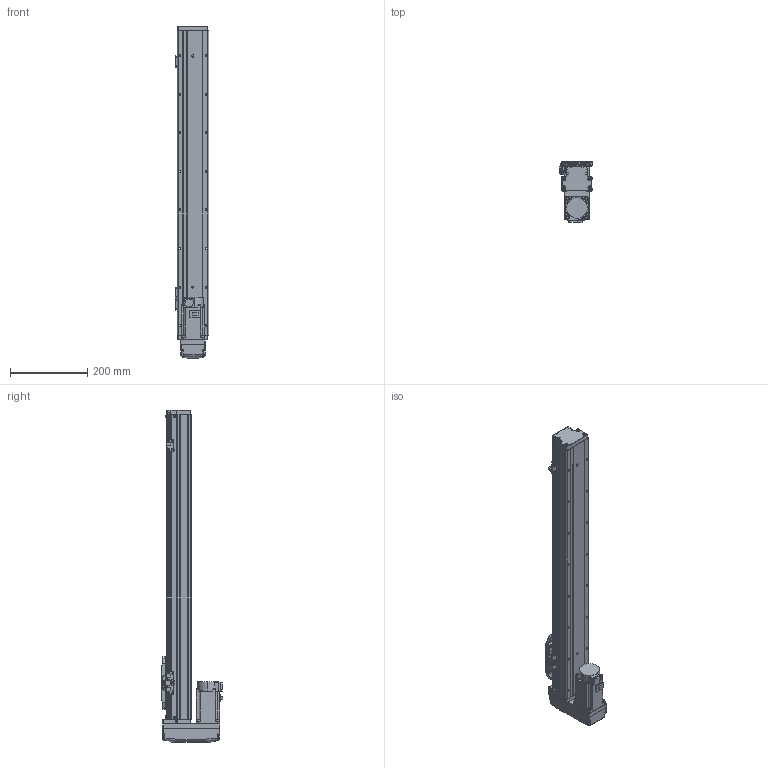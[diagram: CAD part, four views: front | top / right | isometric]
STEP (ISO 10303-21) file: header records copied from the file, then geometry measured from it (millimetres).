
FILE_DESCRIPTION (( 'STEP AP203' ), '1' );
FILE_NAME ('GTH8-600-BM-M20-C4.step', '2022-09-23T01:05:55', ( '微软用户' ), ( '微软中国' ), 'SwSTEP 2.0', 'SolidWorks 2020', '' );
FILE_SCHEMA (( 'CONFIG_CONTROL_DESIGN' ));
Length unit declared in the file: millimetre
Products named in the file (18): GTH80-004; GTH80-028; CTHA86-033_M40B; GTH80-006; GTH50-024; GTH8-600-BM-M20-C4; GTH80-013; GTH50-023; GBT 70.3-M3℅6; GBT96.1-2002 3×0.8; GTH80-022; BTH-M3X5X6; GTH80-001_600; GBT 70.1-M3℅6; hg-kn43j_-s100_; GTH80-003; GBT 70.1-M4×16; CTHA86-015-1_CTHA86-015-2
Assembly tree (57 placements, depth 2):
  GTH8-600-BM-M20-C4
    GTH80-001_600
    GTH80-003
    GTH80-004
    GTH80-006
    GTH80-013
    GBT 70.3-M3℅6  x4
    GTH80-022
    GBT 70.1-M3℅6  x14
    GBT 70.1-M4×16  x8
    GTH80-028  x2
    GTH50-024  x3
    GTH50-023  x3
    GBT96.1-2002 3×0.8  x6
    BTH-M3X5X6  x8
    hg-kn43j_-s100_
    CTHA86-015-1_CTHA86-015-2
    CTHA86-033_M40B
Bounding box: 86.9 x 160.3 x 861 mm (x, y, z)
Volume: 4410667.2 mm3; surface area: 463096.1 mm2
Topology: 59 solids, 59 shells, 2240 faces, 5175 edges, 3171 vertices
Faces by surface type: plane 1187, cylinder 611, cone 260, torus 166, bspline 8, sphere 8
Entity records: 40922 total; most frequent: CARTESIAN_POINT 7193, DIRECTION 6649, ORIENTED_EDGE 6168, EDGE_CURVE 3084, AXIS2_PLACEMENT_3D 2325, VECTOR 1999, LINE 1999, VERTEX_POINT 1946
